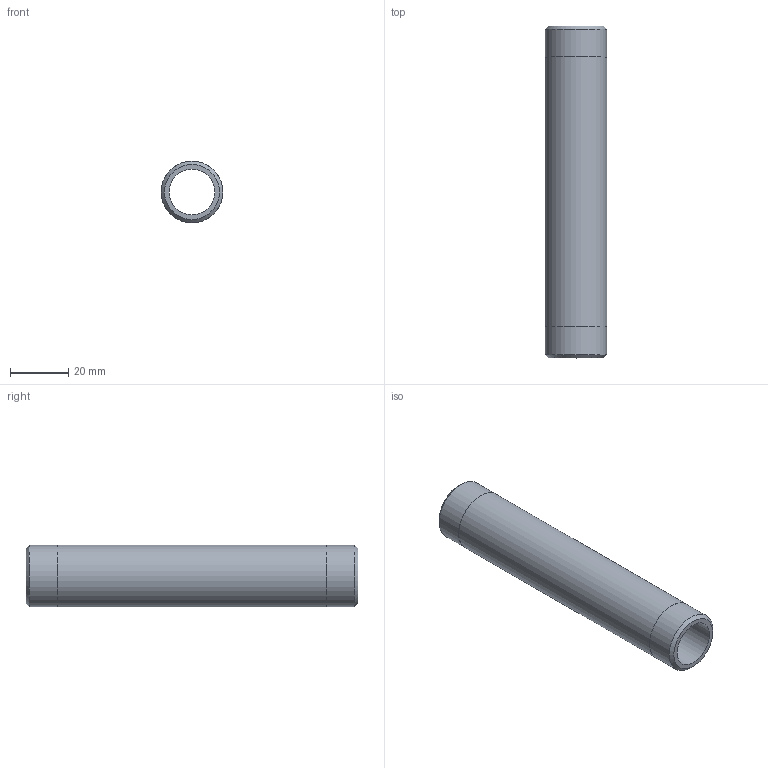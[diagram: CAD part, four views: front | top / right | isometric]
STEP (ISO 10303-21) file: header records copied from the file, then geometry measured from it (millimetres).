
FILE_DESCRIPTION(/* description */ (''),/* implementation_level */ '2;1');
FILE_NAME(/* name */ 'C:/Users/drich/Desktop/SSPN12-4-1_2 v1.step',/* time_stamp */ '2020-01-04T12:56:22-06:00',/* author */ (''),/* organization */ (''),/* preprocessor_version */ 'ST-DEVELOPER v18',/* originating_system */ 'Autodesk Translation Framework v8.12.0.6',/* authorisation */ '');
FILE_SCHEMA (('AUTOMOTIVE_DESIGN { 1 0 10303 214 3 1 1 }'));
Length unit declared in the file: inch
Products named in the file (1): SSPN12-4-1_2
Bounding box: 21.34 x 114.3 x 21.34 mm (x, y, z)
Volume: 18338.5 mm3; surface area: 13561.2 mm2
Topology: 1 solids, 1 shells, 10 faces, 24 edges, 18 vertices
Faces by surface type: cylinder 4, plane 4, cone 2
Full cylindrical faces by diameter (mm): 15.799 x1, 21.285 x2, 21.336 x1
Entity records: 353 total; most frequent: DIRECTION 64, CARTESIAN_POINT 53, ORIENTED_EDGE 48, AXIS2_PLACEMENT_3D 29, EDGE_CURVE 24, CIRCLE 18, VERTEX_POINT 18, EDGE_LOOP 14
